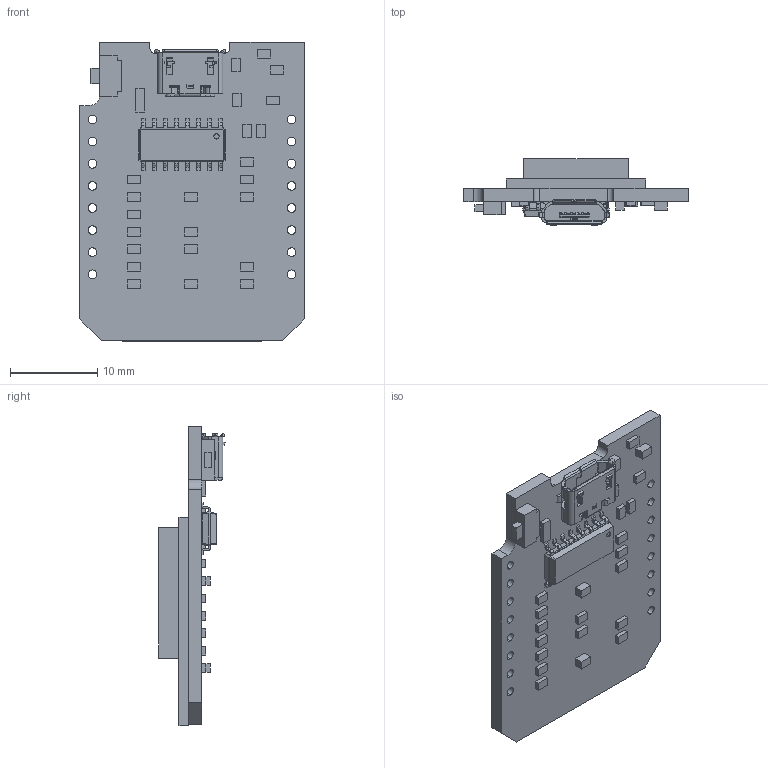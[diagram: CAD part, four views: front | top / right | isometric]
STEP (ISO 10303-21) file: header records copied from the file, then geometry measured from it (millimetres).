
FILE_DESCRIPTION (( 'STEP AP203' ), '1' );
FILE_NAME ('WEMOS-D1-mini_step.STEP', '2018-07-17T16:46:39', ( '' ), ( '' ), 'SwSTEP 2.0', 'SolidWorks 2017', '' );
FILE_SCHEMA (( 'CONFIG_CONTROL_DESIGN' ));
Length unit declared in the file: millimetre
Products named in the file (1): WEMOS-D1-mini_step
Bounding box: 25.8 x 7.6 x 34.45 mm (x, y, z)
Volume: 2236.5 mm3; surface area: 3886.3 mm2
Topology: 30 solids, 30 shells, 1580 faces, 4275 edges, 2810 vertices
Faces by surface type: plane 1051, cylinder 271, bspline 248, cone 10
Entity records: 62526 total; most frequent: CARTESIAN_POINT 23826, ORIENTED_EDGE 8534, DIRECTION 7011, EDGE_CURVE 4267, LINE 3197, VECTOR 3197, VERTEX_POINT 2810, AXIS2_PLACEMENT_3D 1907
